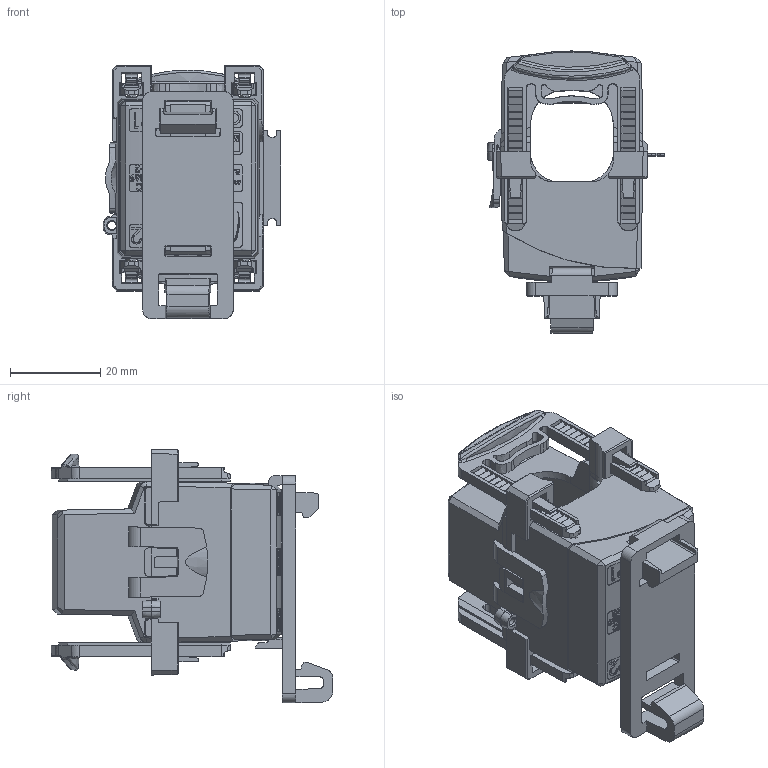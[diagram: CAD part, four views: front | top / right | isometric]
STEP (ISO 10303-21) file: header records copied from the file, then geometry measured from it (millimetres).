
FILE_DESCRIPTION (( 'STEP AP214' ), '1' );
FILE_NAME ('KBR-18S_kpl_2020-11-09.STEP', '2020-11-09T16:03:44', ( '' ), ( '' ), 'SwSTEP 2.0', 'SolidWorks 2019', '' );
FILE_SCHEMA (( 'AUTOMOTIVE_DESIGN' ));
Length unit declared in the file: millimetre
Products named in the file (8): KBR-18S_Schnappbefestigung_fuer_Hutschiene_2.8350_01; KBR-18S_Gehäuse-UT; KBR-18S_Innendeckel_2.8348; KBR-18S_kpl_2020-11-09; KBR-18S_Kern_3.5520_01; KBR-18S_Fixierspange_2.8349; KBR-18S_Gehäuse-OT; KBR-18S_Kern_kpl
Assembly tree (8 placements, depth 3):
  KBR-18S_kpl_2020-11-09
    KBR-18S_Gehäuse-OT
    KBR-18S_Gehäuse-UT
    KBR-18S_Kern_kpl
      KBR-18S_Kern_3.5520_01
    KBR-18S_Innendeckel_2.8348
    KBR-18S_Fixierspange_2.8349  x2
    KBR-18S_Schnappbefestigung_fuer_Hutschiene_2.8350_01
Bounding box: 39.3 x 62.35 x 56.15 mm (x, y, z)
Volume: 22396.9 mm3; surface area: 31996.6 mm2
Topology: 7 solids, 12 shells, 1759 faces, 4904 edges, 3226 vertices
Faces by surface type: plane 1138, cylinder 283, bspline 272, cone 66
Entity records: 73868 total; most frequent: CARTESIAN_POINT 21695, ORIENTED_EDGE 8256, DIRECTION 6013, EDGE_CURVE 4136, LINE 2741, VECTOR 2741, VERTEX_POINT 2731, AXIS2_PLACEMENT_3D 1636
